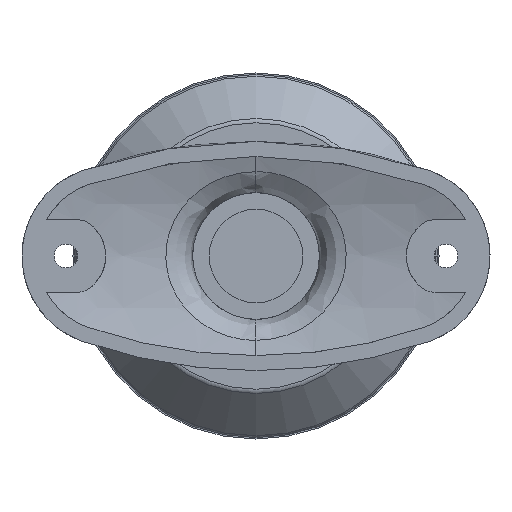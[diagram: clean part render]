
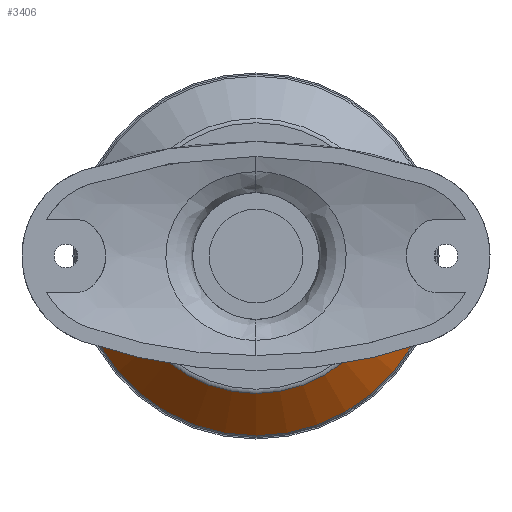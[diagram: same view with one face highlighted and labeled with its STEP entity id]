
A CAD part, front view. The second image highlights one B-rep face of the part: STEP entity #3406.
In plain terms, the highlighted conical face has half-angle 45 degrees and reference radius 22.2 mm.
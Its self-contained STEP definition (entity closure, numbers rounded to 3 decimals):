
#360 = CARTESIAN_POINT ( 'NONE',  ( 0., 0., 12. ) ) ;
#469 = ORIENTED_EDGE ( 'NONE', *, *, #4076, .T. ) ;
#690 = CARTESIAN_POINT ( 'NONE',  ( 22.793, 0., 12.593 ) ) ;
#720 = AXIS2_PLACEMENT_3D ( 'NONE', #1643, #5099, #2122 ) ;
#771 = EDGE_LOOP ( 'NONE', ( #4148, #6261, #469, #1551 ) ) ;
#956 = FACE_OUTER_BOUND ( 'NONE', #771, .T. ) ;
#1030 = AXIS2_PLACEMENT_3D ( 'NONE', #5346, #4244, #4744 ) ;
#1106 = DIRECTION ( 'NONE',  ( -0.707, 0., 0.707 ) ) ;
#1551 = ORIENTED_EDGE ( 'NONE', *, *, #6219, .T. ) ;
#1598 = CARTESIAN_POINT ( 'NONE',  ( -22.2, 0., 12. ) ) ;
#1643 = CARTESIAN_POINT ( 'NONE',  ( 0., 0., 19.607 ) ) ;
#1728 = VERTEX_POINT ( 'NONE', #690 ) ;
#1862 = DIRECTION ( 'NONE',  ( 1., 0., 0. ) ) ;
#2122 = DIRECTION ( 'NONE',  ( -1., 0., 0. ) ) ;
#2240 = EDGE_CURVE ( 'NONE', #3943, #3268, #3891, .T. ) ;
#2269 = LINE ( 'NONE', #2530, #2570 ) ;
#2530 = CARTESIAN_POINT ( 'NONE',  ( 22.2, 0., 12. ) ) ;
#2570 = VECTOR ( 'NONE', #6055, 1000. ) ;
#2643 = CIRCLE ( 'NONE', #1030, 22.793 ) ;
#2649 = EDGE_CURVE ( 'NONE', #3943, #1728, #2643, .T. ) ;
#2901 = VERTEX_POINT ( 'NONE', #4083 ) ;
#3268 = VERTEX_POINT ( 'NONE', #5675 ) ;
#3406 = ADVANCED_FACE ( 'NONE', ( #956 ), #3678, .T. ) ;
#3678 = CONICAL_SURFACE ( 'NONE', #6039, 22.2, 0.785 ) ;
#3891 = LINE ( 'NONE', #1598, #5075 ) ;
#3943 = VERTEX_POINT ( 'NONE', #5294 ) ;
#4076 = EDGE_CURVE ( 'NONE', #1728, #2901, #2269, .T. ) ;
#4083 = CARTESIAN_POINT ( 'NONE',  ( 29.807, 0., 19.607 ) ) ;
#4148 = ORIENTED_EDGE ( 'NONE', *, *, #2240, .F. ) ;
#4244 = DIRECTION ( 'NONE',  ( 0., 0., 1. ) ) ;
#4465 = CIRCLE ( 'NONE', #720, 29.807 ) ;
#4744 = DIRECTION ( 'NONE',  ( -1., 0., 0. ) ) ;
#4822 = DIRECTION ( 'NONE',  ( 0., 0., 1. ) ) ;
#5075 = VECTOR ( 'NONE', #1106, 1000. ) ;
#5099 = DIRECTION ( 'NONE',  ( 0., 0., -1. ) ) ;
#5294 = CARTESIAN_POINT ( 'NONE',  ( -22.793, 0., 12.593 ) ) ;
#5346 = CARTESIAN_POINT ( 'NONE',  ( 0., 0., 12.593 ) ) ;
#5675 = CARTESIAN_POINT ( 'NONE',  ( -29.807, 0., 19.607 ) ) ;
#6039 = AXIS2_PLACEMENT_3D ( 'NONE', #360, #4822, #1862 ) ;
#6055 = DIRECTION ( 'NONE',  ( 0.707, 0., 0.707 ) ) ;
#6219 = EDGE_CURVE ( 'NONE', #2901, #3268, #4465, .T. ) ;
#6261 = ORIENTED_EDGE ( 'NONE', *, *, #2649, .T. ) ;
